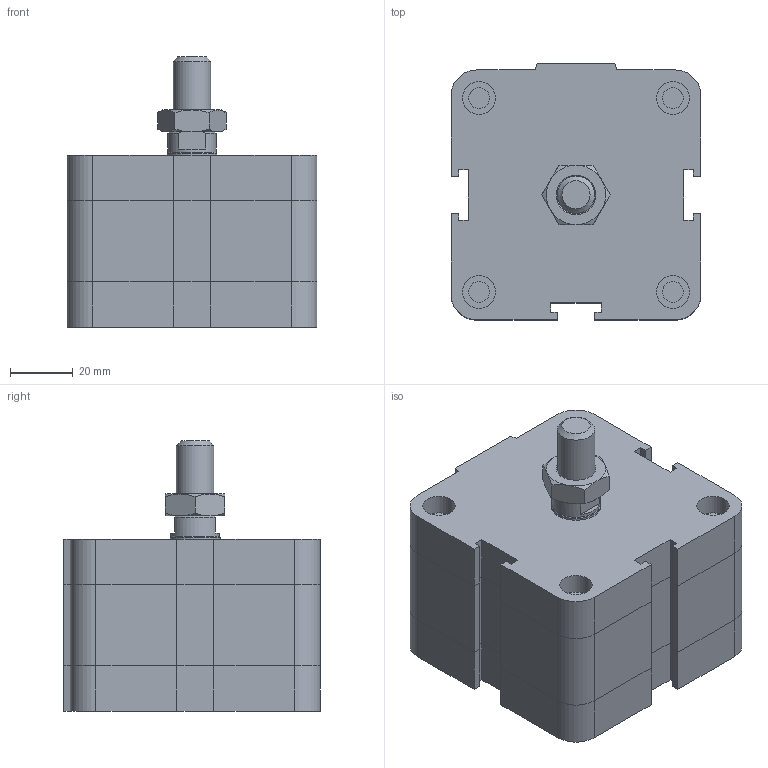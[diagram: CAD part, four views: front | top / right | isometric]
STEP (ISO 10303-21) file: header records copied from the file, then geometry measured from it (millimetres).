
FILE_DESCRIPTION((''),'2;1');
FILE_NAME('I:\Area Tecnica\Disegni\VARIE-3D\Componenti\EUROPE\15##_###_####_02_#\1581_63_0005_02_1.stp','2008-12-19T16:23:53',('rivolro1'),(''),'Autodesk Inventor 2009','Autodesk Inventor 2009','');
FILE_SCHEMA(('AUTOMOTIVE_DESIGN { 1 0 10303 214 1 1 1 1 }'));
Length unit declared in the file: millimetre
Products named in the file (4): 1581_63_0005_02_1; 1581_63_0005_01_1_C; 1561_63_0005_02_1_S; DBFM12
Assembly tree (3 placements, depth 2):
  1581_63_0005_02_1
    1581_63_0005_01_1_C
    1561_63_0005_02_1_S
    DBFM12
Bounding box: 80 x 82 x 86.5 mm (x, y, z)
Volume: 335066.3 mm3; surface area: 42048 mm2
Topology: 3 solids, 3 shells, 187 faces, 401 edges, 240 vertices
Faces by surface type: plane 121, bspline 24, cylinder 24, cone 18
Full cylindrical faces by diameter (mm): 6.647 x4, 10.5 x4, 10.8 x1, 12 x1, 15.6 x1, 16 x1
Entity records: 5080 total; most frequent: CARTESIAN_POINT 1096, DIRECTION 758, ORIENTED_EDGE 724, EDGE_CURVE 362, AXIS2_PLACEMENT_3D 254, VECTOR 250, LINE 250, EDGE_LOOP 238
